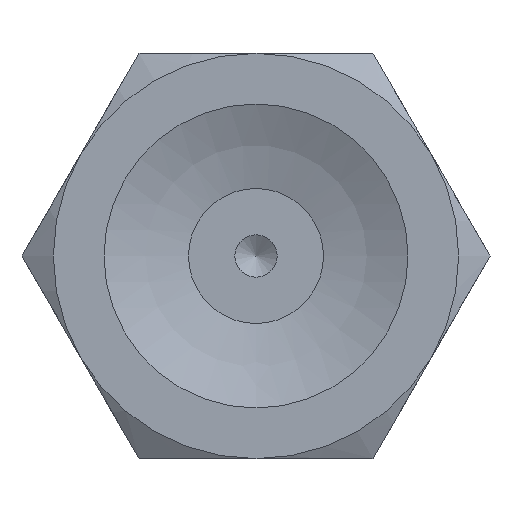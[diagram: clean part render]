
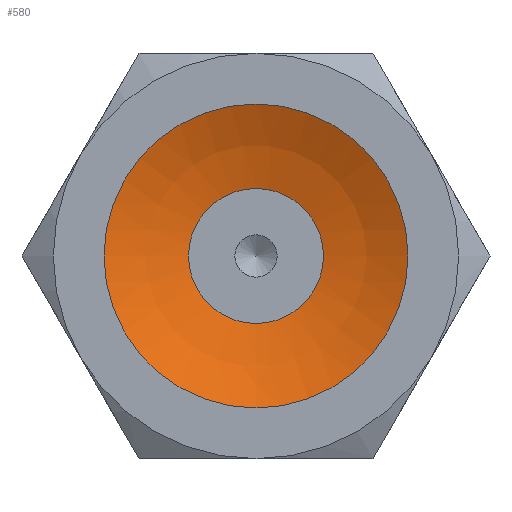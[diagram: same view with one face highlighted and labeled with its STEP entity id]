
A CAD part, front view. The second image highlights one B-rep face of the part: STEP entity #580.
In plain terms, the highlighted spherical face has radius 10.203 mm.
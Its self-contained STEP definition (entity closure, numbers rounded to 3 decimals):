
#580=ADVANCED_FACE('',(#899,#900),#901,.F.);
#899=FACE_OUTER_BOUND('',#1239,.T.);
#900=FACE_OUTER_BOUND('',#1240,.T.);
#901=SPHERICAL_SURFACE('',#1241,10.203);
#1239=EDGE_LOOP('',(#2084));
#1240=EDGE_LOOP('',(#2085));
#1241=AXIS2_PLACEMENT_3D('',#2086,#2087,#2088);
#2084=ORIENTED_EDGE('',*,*,#2363,.T.);
#2085=ORIENTED_EDGE('',*,*,#2364,.F.);
#2086=CARTESIAN_POINT('',(0.,-9.157,0.));
#2087=DIRECTION('',(0.0,-1.0,0.));
#2088=DIRECTION('',(1.0,0.0,0.0));
#2363=EDGE_CURVE('',#2747,#2747,#2748,.T.);
#2364=EDGE_CURVE('',#2749,#2749,#2750,.T.);
#2747=VERTEX_POINT('',#3717);
#2748=CIRCLE('',#3718,4.5);
#2749=VERTEX_POINT('',#3719);
#2750=CIRCLE('',#3720,2.);
#3717=CARTESIAN_POINT('',(0.0,0.,-4.5));
#3718=AXIS2_PLACEMENT_3D('',#4078,#4079,#4080);
#3719=CARTESIAN_POINT('',(0.0,0.848,-2.));
#3720=AXIS2_PLACEMENT_3D('',#4081,#4082,#4083);
#4078=CARTESIAN_POINT('',(0.0,0.,0.0));
#4079=DIRECTION('',(0.0,-1.0,0.));
#4080=DIRECTION('',(0.0,0.,-1.0));
#4081=CARTESIAN_POINT('',(0.0,0.848,0.0));
#4082=DIRECTION('',(0.0,-1.0,0.));
#4083=DIRECTION('',(0.0,0.,-1.0));
